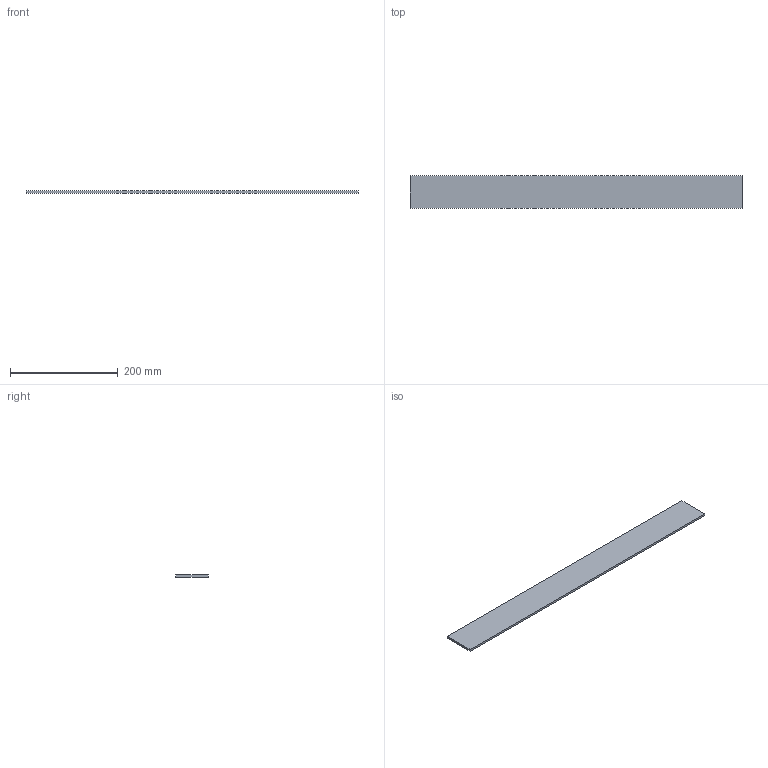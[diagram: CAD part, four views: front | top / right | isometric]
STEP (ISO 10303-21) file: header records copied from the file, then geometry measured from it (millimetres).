
FILE_DESCRIPTION (( 'STEP AP214' ), '1' );
FILE_NAME ('_Variowing Glasdekor NL650.step', '2010-07-14T13:33:39', ( 'grass' ), ( '' ), 'SwSTEP 2.0', 'SolidWorks 2010', '' );
FILE_SCHEMA (( 'AUTOMOTIVE_DESIGN' ));
Length unit declared in the file: millimetre
Products named in the file (1): _Variowing Glasdekor NL650
Bounding box: 615 x 60 x 4 mm (x, y, z)
Volume: 147600 mm3; surface area: 79200 mm2
Topology: 1 solids, 1 shells, 6 faces, 12 edges, 8 vertices
Faces by surface type: plane 6
Entity records: 190 total; most frequent: CARTESIAN_POINT 27, DIRECTION 26, ORIENTED_EDGE 24, VECTOR 12, LINE 12, EDGE_CURVE 12, VERTEX_POINT 8, AXIS2_PLACEMENT_3D 7
